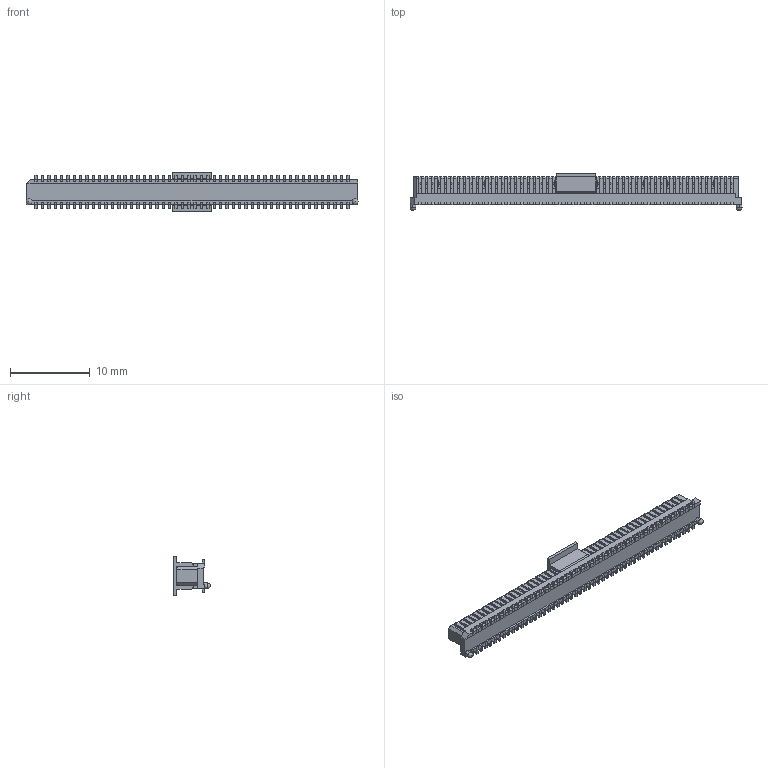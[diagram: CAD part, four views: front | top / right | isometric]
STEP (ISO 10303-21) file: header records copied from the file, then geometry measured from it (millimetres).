
FILE_DESCRIPTION (( 'STEP AP214' ), '1' );
FILE_NAME ('2383-100MG00DPT-P.STEP', '2017-04-28T09:33:46', ( 'RD05' ), ( '' ), 'SwSTEP 2.0', 'SolidWorks 2011', '' );
FILE_SCHEMA (( 'AUTOMOTIVE_DESIGN' ));
Length unit declared in the file: millimetre
Products named in the file (4): M-PIN; M-Cap; M-塑膠; 2383-100MG00DPT-P
Assembly tree (102 placements, depth 2):
  2383-100MG00DPT-P
    M-PIN  x100
    M-Cap
    M-塑膠
Bounding box: 41.75 x 4.62 x 5 mm (x, y, z)
Volume: 345.4 mm3; surface area: 1348.1 mm2
Topology: 202 solids, 202 shells, 2865 faces, 7379 edges, 4916 vertices
Faces by surface type: plane 2153, cylinder 710, sphere 2
Entity records: 43398 total; most frequent: CARTESIAN_POINT 7737, ORIENTED_EDGE 7618, DIRECTION 7019, EDGE_CURVE 3809, VECTOR 3367, LINE 3367, VERTEX_POINT 2536, AXIS2_PLACEMENT_3D 1826
